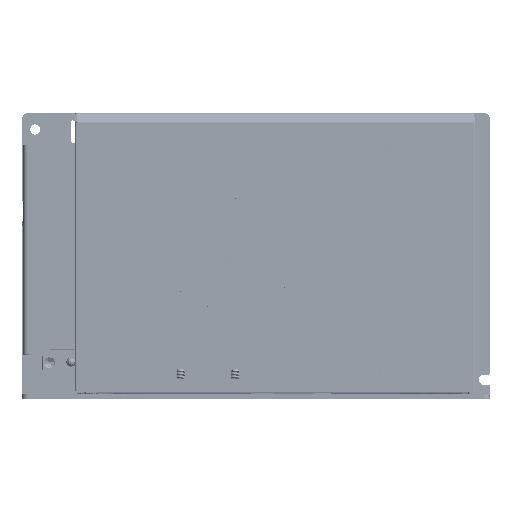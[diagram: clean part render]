
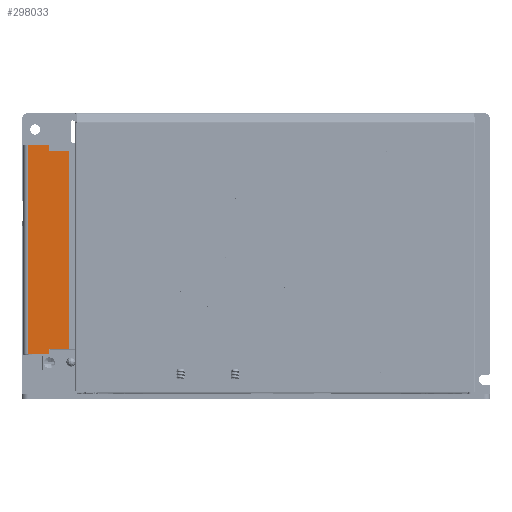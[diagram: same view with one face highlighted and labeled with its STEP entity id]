
A CAD part, top view. The second image highlights one B-rep face of the part: STEP entity #298033.
In plain terms, the highlighted free-form (B-spline) face has degree [3, 3] with [4, 4] control points.
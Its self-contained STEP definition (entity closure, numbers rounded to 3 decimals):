
#277902=DIRECTION('',(0.,1.,0.));
#277903=VECTOR('',#277902,1.9);
#277904=CARTESIAN_POINT('',(-70.324,35.74,22.301));
#277905=LINE('',#277904,#277903);
#277914=DIRECTION('',(-1.,0.,0.));
#277915=VECTOR('',#277914,6.7);
#277916=CARTESIAN_POINT('',(-63.624,35.74,22.301));
#277917=LINE('',#277916,#277915);
#277918=DIRECTION('',(0.,1.,0.));
#277919=VECTOR('',#277918,67.3);
#277920=CARTESIAN_POINT('',(-63.624,-31.56,22.301));
#277921=LINE('',#277920,#277919);
#277926=DIRECTION('',(1.,0.,0.));
#277927=VECTOR('',#277926,6.7);
#277928=CARTESIAN_POINT('',(-70.324,-31.56,22.301));
#277929=LINE('',#277928,#277927);
#277938=DIRECTION('',(0.,1.,0.));
#277939=VECTOR('',#277938,1.9);
#277940=CARTESIAN_POINT('',(-70.324,-33.46,22.301));
#277941=LINE('',#277940,#277939);
#277984=DIRECTION('',(-1.,0.,0.));
#277985=VECTOR('',#277984,7.3);
#277986=CARTESIAN_POINT('',(-70.324,-33.46,22.301));
#277987=LINE('',#277986,#277985);
#277988=DIRECTION('',(0.,1.,0.));
#277989=VECTOR('',#277988,71.1);
#277990=CARTESIAN_POINT('',(-77.624,-33.46,22.301));
#277991=LINE('',#277990,#277989);
#277992=DIRECTION('',(1.,0.,
0.));
#277993=VECTOR('',#277992,7.3);
#277994=CARTESIAN_POINT('',(-77.624,37.64,
22.301));
#277995=LINE('',#277994,#277993);
#293995=CARTESIAN_POINT('',(-77.624,37.64,
22.301));
#293997=VERTEX_POINT('',#293995);
#294007=CARTESIAN_POINT('',(-77.624,-33.46,22.301));
#294008=VERTEX_POINT('',#294007);
#294009=CARTESIAN_POINT('',(-70.324,-33.46,22.301));
#294010=VERTEX_POINT('',#294009);
#294015=CARTESIAN_POINT('',(-63.624,-31.56,22.301));
#294016=CARTESIAN_POINT('',(-63.624,35.74,22.301));
#294017=VERTEX_POINT('',#294015);
#294018=VERTEX_POINT('',#294016);
#294019=CARTESIAN_POINT('',(-70.324,-31.56,22.301));
#294020=VERTEX_POINT('',#294019);
#294021=CARTESIAN_POINT('',(-70.324,37.64,22.301));
#294022=VERTEX_POINT('',#294021);
#294023=CARTESIAN_POINT('',(-70.324,35.74,22.301));
#294024=VERTEX_POINT('',#294023);
#298006=CARTESIAN_POINT('',(-63.344,39.062,22.301));
#298007=CARTESIAN_POINT('',(-63.344,14.414,22.301));
#298008=CARTESIAN_POINT('',(-63.344,-10.234,22.301));
#298009=CARTESIAN_POINT('',(-63.344,-34.882,22.301));
#298010=CARTESIAN_POINT('',(-68.197,39.062,22.301));
#298011=CARTESIAN_POINT('',(-68.197,14.414,22.301));
#298012=CARTESIAN_POINT('',(-68.198,-10.234,22.301));
#298013=CARTESIAN_POINT('',(-68.198,-34.882,22.301));
#298014=CARTESIAN_POINT('',(-73.05,39.062,22.301));
#298015=CARTESIAN_POINT('',(-73.051,14.414,22.301));
#298016=CARTESIAN_POINT('',(-73.051,-10.234,22.301));
#298017=CARTESIAN_POINT('',(-73.051,-34.882,22.301));
#298018=CARTESIAN_POINT('',(-77.904,39.062,22.301));
#298019=CARTESIAN_POINT('',(-77.904,14.414,22.301));
#298020=CARTESIAN_POINT('',(-77.904,-10.234,22.301));
#298021=CARTESIAN_POINT('',(-77.904,-34.882,22.301));
#298022=B_SPLINE_SURFACE_WITH_KNOTS('',3,3,((#298006,#298007,#298008,#298009),(
#298010,#298011,#298012,#298013),(#298014,#298015,#298016,#298017),(#298018,
#298019,#298020,#298021)),.UNSPECIFIED.,.F.,.F.,.F.,(4,4),(4,4),(-5.28,
9.28),(-1.422,72.522),.UNSPECIFIED.);
#298023=ORIENTED_EDGE('',*,*,#297835,.F.);
#298024=ORIENTED_EDGE('',*,*,#297861,.F.);
#298025=ORIENTED_EDGE('',*,*,#297887,.F.);
#298026=ORIENTED_EDGE('',*,*,#297920,.T.);
#298027=ORIENTED_EDGE('',*,*,#298001,.T.);
#298028=ORIENTED_EDGE('',*,*,#297749,.T.);
#298029=ORIENTED_EDGE('',*,*,#297783,.F.);
#298030=ORIENTED_EDGE('',*,*,#297809,.F.);
#298031=EDGE_LOOP('',(#298023,#298024,#298025,#298026,#298027,#298028,#298029,
#298030));
#298032=FACE_OUTER_BOUND('',#298031,.F.);
#298033=ADVANCED_FACE('',(#298032),#298022,.T.);
#297749=EDGE_CURVE('',#293997,#294022,#277995,.T.);
#297783=EDGE_CURVE('',#294024,#294022,#277905,.T.);
#297809=EDGE_CURVE('',#294018,#294024,#277917,.T.);
#297835=EDGE_CURVE('',#294017,#294018,#277921,.T.);
#297861=EDGE_CURVE('',#294020,#294017,#277929,.T.);
#297887=EDGE_CURVE('',#294010,#294020,#277941,.T.);
#297920=EDGE_CURVE('',#294010,#294008,#277987,.T.);
#298001=EDGE_CURVE('',#294008,#293997,#277991,.T.);
